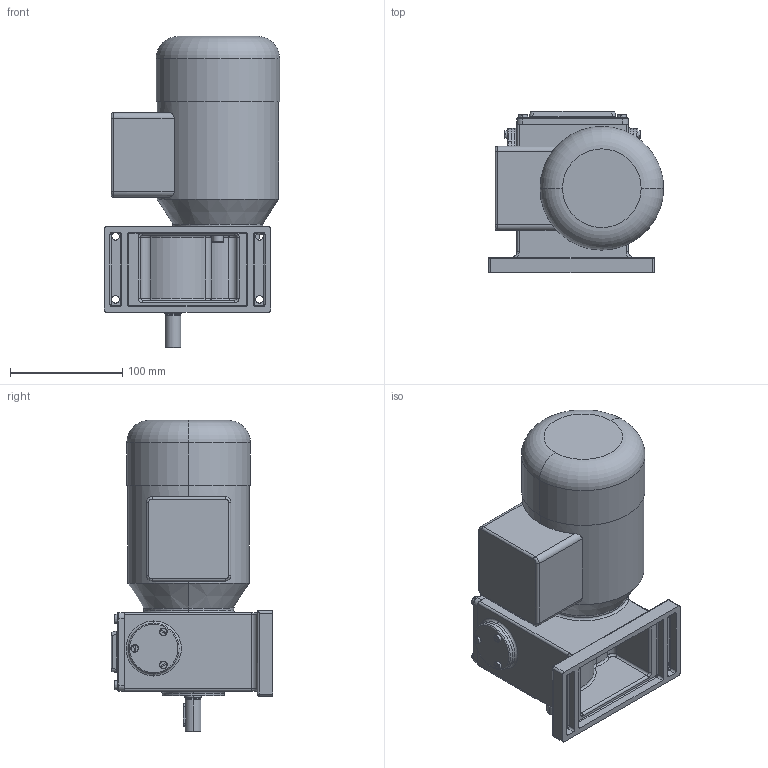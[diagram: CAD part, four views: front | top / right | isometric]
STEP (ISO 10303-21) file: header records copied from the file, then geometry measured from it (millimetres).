
FILE_DESCRIPTION (( 'STEP AP214' ), '1' );
FILE_NAME ('SN2_90W_1400Upm_Drehstrom-Motor.STEP', '2021-09-22T07:31:24', ( '' ), ( '' ), 'SwSTEP 2.0', 'SolidWorks 2019', '' );
FILE_SCHEMA (( 'AUTOMOTIVE_DESIGN' ));
Length unit declared in the file: millimetre
Products named in the file (13): socket set screw flat point_iso_ISO 4026 - M6 x 30-C; PF_A5x5x20; 02-G-002_3D_Export; SN2_90W_1400Upm_Drehstrom-Motor; 02F-D-006_3D_Export; slotted cheese head screw_iso_ISO 1207 - M5 x 14 - 14C; socket head cap screw_iso_ISO 4762 M6 x 20 - 20C; 02F-D-004_3D_Export; 02F-W-001_3D_Export; SN2_3D_Export; slotted cheese head screw_iso_ISO 1207 - M4 x 12 - 12C; NBR_WDR_15x35x7; 02-M-011 I 90W_1400Upm
Assembly tree (22 placements, depth 3):
  SN2_90W_1400Upm_Drehstrom-Motor
    SN2_3D_Export
      02-G-002_3D_Export
      02F-D-004_3D_Export
      02F-W-001_3D_Export
      NBR_WDR_15x35x7
      PF_A5x5x20
      02F-D-006_3D_Export  x2
      socket head cap screw_iso_ISO 4762 M6 x 20 - 20C  x2
      socket set screw flat point_iso_ISO 4026 - M6 x 30-C
      slotted cheese head screw_iso_ISO 1207 - M4 x 12 - 12C  x6
      slotted cheese head screw_iso_ISO 1207 - M5 x 14 - 14C  x4
    02-M-011 I 90W_1400Upm
Bounding box: 156 x 144 x 277 mm (x, y, z)
Volume: 2577991.5 mm3; surface area: 213702 mm2
Topology: 21 solids, 22 shells, 657 faces, 1507 edges, 913 vertices
Faces by surface type: cylinder 252, plane 200, cone 86, torus 82, bspline 35, sphere 2
Entity records: 16781 total; most frequent: CARTESIAN_POINT 4272, DIRECTION 2682, ORIENTED_EDGE 2298, EDGE_CURVE 1149, AXIS2_PLACEMENT_3D 1110, VERTEX_POINT 702, CIRCLE 605, EDGE_LOOP 585
